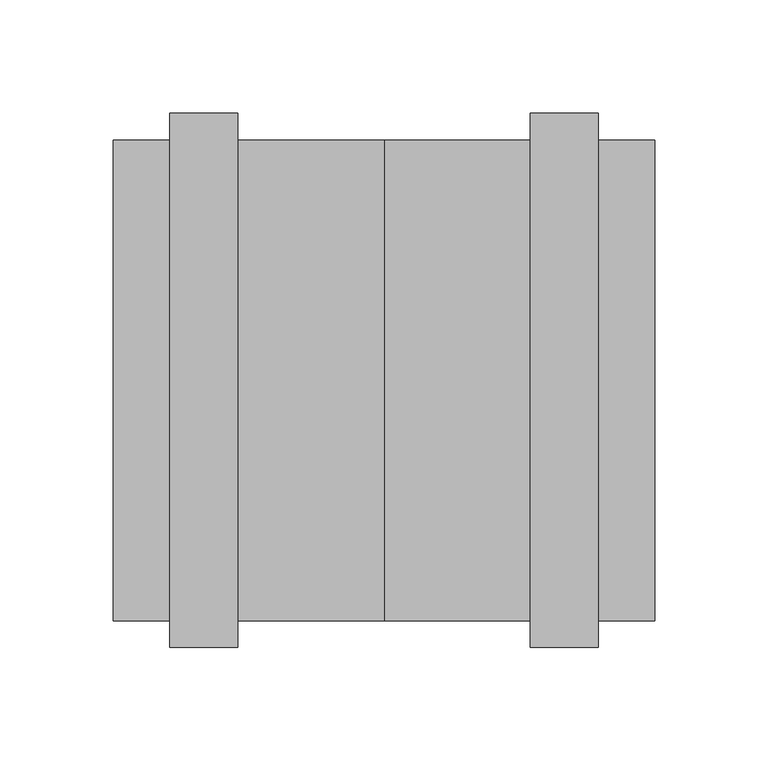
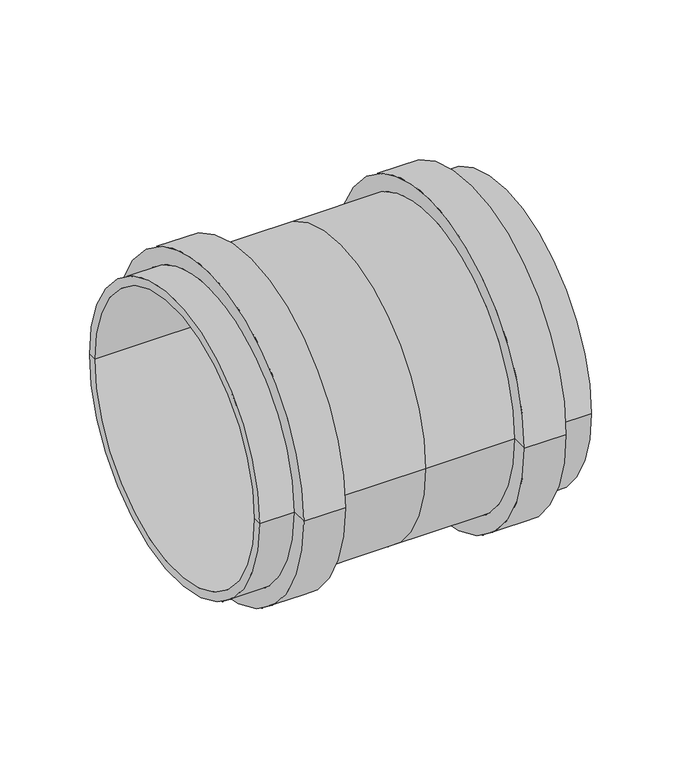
"""IFC4 building model written with IfcOpenShell, lengths in millimetres: pipe fitting geometry, OSMA_KG2000_PPKGMM : Spojka dvouhrdlá."""

from ifc_helpers import new_model, si_unit, frame, origin, place, context, project, spatial, polyline, circle_curve, source, transform, mapped, element, save
from ifc_brep_helpers import plane_surface, cylinder_surface, revolved_surface, advanced_brep


def pipe_fitting_0a85f3d4(model_context):
    return source(origin(), model_context, "Body", "AdvancedBrep", [
        advanced_brep(
        [(-119.5, -100.0, 0.0), (-119.5, 100.0, 0.0), (-119.5, 106.2, 0.0), (-119.5, -106.2, 0.0), (-64.5, -118.0, 0.0), (-64.5, 118.0, 0.0), (-64.5, 106.2, 0.0), (-64.5, -106.2, 0.0), (-94.5, -118.0, 0.0), (-94.5, 118.0, 0.0), (-94.5, -106.2, 0.0), (-94.5, 106.2, 0.0), (0.0, 106.2, 0.0), (0.0, -106.2, 0.0), (94.5, -118.0, 0.0), (94.5, 118.0, 0.0), (94.5, 106.2, 0.0), (94.5, -106.2, 0.0), (64.5, -118.0, 0.0), (64.5, 118.0, 0.0), (64.5, -106.2, 0.0), (64.5, 106.2, 0.0), (119.5, 106.2, 0.0), (119.5, -106.2, 0.0), (119.5, 100.0, 0.0), (119.5, -100.0, 0.0), (0.0, -100.0, 0.0), (0.0, 100.0, 0.0)],
        [
            (0, 1, circle_curve(frame((-119.5, 0.0, 0.0), z_axis=(1.0, 0.0, 0.0), x_axis=(0.0, 1.0, 0.0)), 100.0)),
            (1, 2),
            (2, 3, circle_curve(frame((-119.5, 0.0, 0.0), z_axis=(-1.0, 0.0, 0.0), x_axis=(0.0, 1.0, 0.0)), 106.2)),
            (3, 0),
            (1, 0, circle_curve(frame((-119.5, 0.0, 0.0), z_axis=(1.0, 0.0, 0.0), x_axis=(0.0, 1.0, 0.0)), 100.0)),
            (3, 2, circle_curve(frame((-119.5, 0.0, 0.0), z_axis=(-1.0, 0.0, 0.0), x_axis=(0.0, 1.0, 0.0)), 106.2)),
            (4, 5, circle_curve(frame((-64.5, 0.0, 0.0), z_axis=(1.0, 0.0, 0.0), x_axis=(0.0, 1.0, 0.0)), 118.0)),
            (5, 6),
            (6, 7, circle_curve(frame((-64.5, 0.0, 0.0), z_axis=(-1.0, 0.0, 0.0), x_axis=(0.0, 1.0, 0.0)), 106.2)),
            (7, 4),
            (5, 4, circle_curve(frame((-64.5, 0.0, 0.0), z_axis=(1.0, 0.0, 0.0), x_axis=(0.0, 1.0, 0.0)), 118.0)),
            (7, 6, circle_curve(frame((-64.5, 0.0, 0.0), z_axis=(-1.0, 0.0, 0.0), x_axis=(0.0, 1.0, 0.0)), 106.2)),
            (4, 8),
            (8, 9, circle_curve(frame((-94.5, 0.0, 0.0), z_axis=(1.0, 0.0, 0.0), x_axis=(0.0, 1.0, 0.0)), 118.0)),
            (9, 5),
            (9, 8, circle_curve(frame((-94.5, 0.0, 0.0), z_axis=(1.0, 0.0, 0.0), x_axis=(0.0, 1.0, 0.0)), 118.0)),
            (8, 10),
            (10, 11, circle_curve(frame((-94.5, 0.0, 0.0), z_axis=(1.0, 0.0, 0.0), x_axis=(0.0, 1.0, 0.0)), 106.2)),
            (11, 9),
            (11, 10, circle_curve(frame((-94.5, 0.0, 0.0), z_axis=(1.0, 0.0, 0.0), x_axis=(0.0, 1.0, 0.0)), 106.2)),
            (2, 11),
            (10, 3),
            (6, 12),
            (12, 13, circle_curve(frame((0.0, 0.0, 0.0), z_axis=(-1.0, 0.0, 0.0), x_axis=(0.0, 1.0, 0.0)), 106.2)),
            (13, 7),
            (13, 12, circle_curve(frame((0.0, 0.0, 0.0), z_axis=(-1.0, 0.0, 0.0), x_axis=(0.0, 1.0, 0.0)), 106.2)),
            (14, 15, circle_curve(frame((94.5, 0.0, 0.0), z_axis=(1.0, 0.0, 0.0), x_axis=(0.0, 1.0, 0.0)), 118.0)),
            (15, 16),
            (16, 17, circle_curve(frame((94.5, 0.0, 0.0), z_axis=(-1.0, 0.0, 0.0), x_axis=(0.0, 1.0, 0.0)), 106.2)),
            (17, 14),
            (15, 14, circle_curve(frame((94.5, 0.0, 0.0), z_axis=(1.0, 0.0, 0.0), x_axis=(0.0, 1.0, 0.0)), 118.0)),
            (17, 16, circle_curve(frame((94.5, 0.0, 0.0), z_axis=(-1.0, 0.0, 0.0), x_axis=(0.0, 1.0, 0.0)), 106.2)),
            (14, 18),
            (18, 19, circle_curve(frame((64.5, 0.0, 0.0), z_axis=(1.0, 0.0, 0.0), x_axis=(0.0, 1.0, 0.0)), 118.0)),
            (19, 15),
            (19, 18, circle_curve(frame((64.5, 0.0, 0.0), z_axis=(1.0, 0.0, 0.0), x_axis=(0.0, 1.0, 0.0)), 118.0)),
            (18, 20),
            (20, 21, circle_curve(frame((64.5, 0.0, 0.0), z_axis=(1.0, 0.0, 0.0), x_axis=(0.0, 1.0, 0.0)), 106.2)),
            (21, 19),
            (21, 20, circle_curve(frame((64.5, 0.0, 0.0), z_axis=(1.0, 0.0, 0.0), x_axis=(0.0, 1.0, 0.0)), 106.2)),
            (20, 13),
            (12, 21),
            (16, 22),
            (22, 23, circle_curve(frame((119.5, 0.0, 0.0), z_axis=(-1.0, 0.0, 0.0), x_axis=(0.0, 1.0, 0.0)), 106.2)),
            (23, 17),
            (23, 22, circle_curve(frame((119.5, 0.0, 0.0), z_axis=(-1.0, 0.0, 0.0), x_axis=(0.0, 1.0, 0.0)), 106.2)),
            (22, 24),
            (24, 25, circle_curve(frame((119.5, 0.0, 0.0), z_axis=(-1.0, 0.0, 0.0), x_axis=(0.0, 1.0, 0.0)), 100.0)),
            (25, 23),
            (25, 24, circle_curve(frame((119.5, 0.0, 0.0), z_axis=(-1.0, 0.0, 0.0), x_axis=(0.0, 1.0, 0.0)), 100.0)),
            (0, 26),
            (26, 27, circle_curve(frame((0.0, 0.0, 0.0), z_axis=(1.0, 0.0, 0.0), x_axis=(0.0, 1.0, 0.0)), 100.0)),
            (27, 1),
            (27, 26, circle_curve(frame((0.0, 0.0, 0.0), z_axis=(1.0, 0.0, 0.0), x_axis=(0.0, 1.0, 0.0)), 100.0)),
            (24, 27),
            (26, 25),
        ],
        [
            plane_surface(frame((-119.5, 0.0, 0.0), z_axis=(-1.0, 0.0, 0.0), x_axis=(0.0, 1.0, 0.0))),
            plane_surface(frame((-64.5, 0.0, 0.0), z_axis=(1.0, 0.0, 0.0), x_axis=(0.0, 1.0, 0.0))),
            cylinder_surface(frame((320.0, 0.0, 0.0), z_axis=(-1.0, 0.0, 0.0), x_axis=(0.0, 1.0, 0.0)), 118.0),
            plane_surface(frame((-94.5, 0.0, 0.0), z_axis=(-1.0, 0.0, 0.0), x_axis=(0.0, 1.0, 0.0))),
            cylinder_surface(frame((320.0, 0.0, 0.0), z_axis=(-1.0, 0.0, 0.0), x_axis=(0.0, 1.0, 0.0)), 106.2),
            plane_surface(frame((94.5, 0.0, 0.0), z_axis=(1.0, 0.0, 0.0), x_axis=(0.0, 1.0, 0.0))),
            plane_surface(frame((64.5, 0.0, 0.0), z_axis=(-1.0, 0.0, 0.0), x_axis=(0.0, 1.0, 0.0))),
            plane_surface(frame((119.5, 0.0, 0.0), z_axis=(1.0, 0.0, 0.0), x_axis=(0.0, 1.0, 0.0))),
            revolved_surface(polyline([(-119.5, 100.0, 0.0), (0.0, 100.0, 0.0)]), (320.0, 0.0, 0.0), (-1.0, 0.0, 0.0)),
            revolved_surface(polyline([(0.0, 100.0, 0.0), (119.5, 100.0, 0.0)]), (320.0, 0.0, 0.0), (-1.0, 0.0, 0.0)),
        ],
        [
            (0, [[1, 2, 3, 4]]),
            (0, [[-2, 5, -4, 6]]),
            (1, [[7, 8, 9, 10]]),
            (1, [[-8, 11, -10, 12]]),
            (2, [[-7, 13, 14, 15]]),
            (2, [[-11, -15, 16, -13]]),
            (3, [[-14, 17, 18, 19]]),
            (3, [[-16, -19, 20, -17]]),
            (4, [[-3, 21, -18, 22]]),
            (4, [[-6, -22, -20, -21]]),
            (4, [[-9, 23, 24, 25]]),
            (4, [[-12, -25, 26, -23]]),
            (5, [[27, 28, 29, 30]]),
            (5, [[-28, 31, -30, 32]]),
            (2, [[-27, 33, 34, 35]]),
            (2, [[-31, -35, 36, -33]]),
            (6, [[-34, 37, 38, 39]]),
            (6, [[-36, -39, 40, -37]]),
            (4, [[-38, 41, -24, 42]]),
            (4, [[-40, -42, -26, -41]]),
            (4, [[-29, 43, 44, 45]]),
            (4, [[-32, -45, 46, -43]]),
            (7, [[-44, 47, 48, 49]]),
            (7, [[-46, -49, 50, -47]]),
            (8, [[-1, 51, 52, 53]]),
            (8, [[-5, -53, 54, -51]]),
            (9, [[-48, 55, -52, 56]]),
            (9, [[-50, -56, -54, -55]]),
        ],
    ),
    ])


if __name__ == "__main__":
    model = new_model("IFC4")
    model_context = context("Model", 3, world=origin())
    ifc_project = project(units=[si_unit("LENGTHUNIT", "METRE", prefix="MILLI")], contexts=[model_context])
    site = spatial("IfcSite", under=ifc_project)
    building = spatial("IfcBuilding", under=site)
    placement = place(None, origin())
    pipe_fitting_shape = pipe_fitting_0a85f3d4(model_context)
    element("IfcPipeFitting", 1, ObjectType="OSMA_KG2000_PPKGMM : Spojka dvouhrdlá", at=placement, inside=building, context=model_context, shape_type="MappedRepresentation", body=[
        mapped(pipe_fitting_shape, transform((0.0, 0.0, 0.0), x_axis=(1.0, 0.0, 0.0), y_axis=(0.0, 1.0, 0.0), z_axis=(0.0, 0.0, 1.0))),
    ])
    save(model, "model.ifc")
